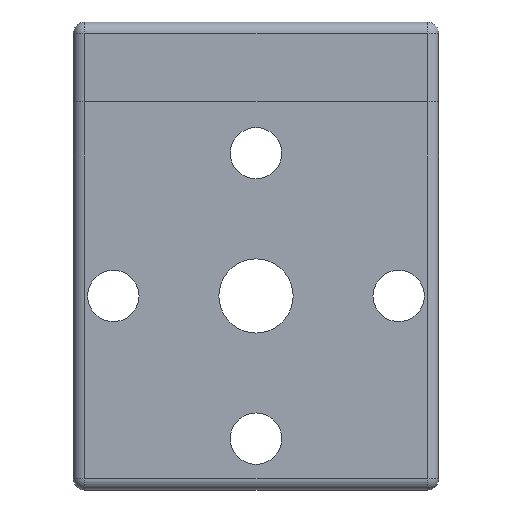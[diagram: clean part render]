
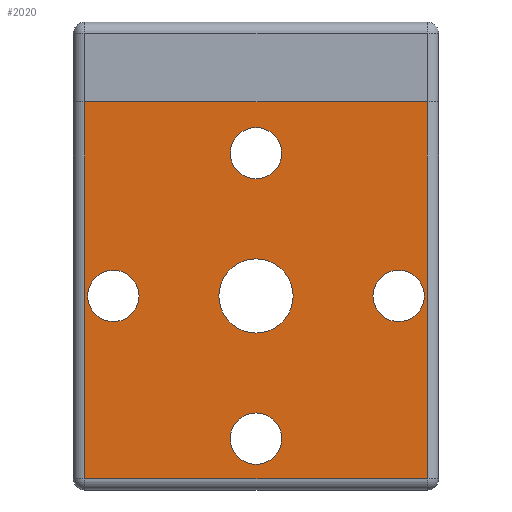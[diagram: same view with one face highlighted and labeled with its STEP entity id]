
A CAD part, front view. The second image highlights one B-rep face of the part: STEP entity #2020.
In plain terms, the highlighted planar face has unit normal (0, -1, 0).
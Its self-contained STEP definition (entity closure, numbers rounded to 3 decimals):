
#5 = DIRECTION ( 'NONE',  ( 0., -1., 0. ) ) ;
#8 = AXIS2_PLACEMENT_3D ( 'NONE', #698, #1572, #751 ) ;
#22 = FACE_BOUND ( 'NONE', #2240, .T. ) ;
#58 = CARTESIAN_POINT ( 'NONE',  ( 2.608, -2.603, 12.5 ) ) ;
#77 = CIRCLE ( 'NONE', #740, 2.25 ) ;
#87 = AXIS2_PLACEMENT_3D ( 'NONE', #3553, #5, #797 ) ;
#126 = CARTESIAN_POINT ( 'NONE',  ( -13.392, -2.603, -16. ) ) ;
#146 = VERTEX_POINT ( 'NONE', #3421 ) ;
#148 = DIRECTION ( 'NONE',  ( 0., 0., 1. ) ) ;
#166 = ORIENTED_EDGE ( 'NONE', *, *, #1016, .F. ) ;
#211 = LINE ( 'NONE', #1488, #2874 ) ;
#269 = CIRCLE ( 'NONE', #337, 2.25 ) ;
#272 = CARTESIAN_POINT ( 'NONE',  ( 2.608, -2.603, 10.25 ) ) ;
#283 = DIRECTION ( 'NONE',  ( 0., 0., 1. ) ) ;
#288 = VERTEX_POINT ( 'NONE', #3189 ) ;
#302 = EDGE_LOOP ( 'NONE', ( #2941, #1582 ) ) ;
#314 = DIRECTION ( 'NONE',  ( 0., 0., 1. ) ) ;
#337 = AXIS2_PLACEMENT_3D ( 'NONE', #3281, #813, #2729 ) ;
#343 = VECTOR ( 'NONE', #884, 1000. ) ;
#344 = CARTESIAN_POINT ( 'NONE',  ( -12.392, -2.603, 17. ) ) ;
#354 = CIRCLE ( 'NONE', #87, 2.25 ) ;
#359 = CARTESIAN_POINT ( 'NONE',  ( 2.608, -2.603, -12.5 ) ) ;
#379 = DIRECTION ( 'NONE',  ( 0., 0., -1. ) ) ;
#400 = CIRCLE ( 'NONE', #1504, 2.25 ) ;
#420 = DIRECTION ( 'NONE',  ( 0., 0., 1. ) ) ;
#422 = CARTESIAN_POINT ( 'NONE',  ( 2.608, -2.603, 0. ) ) ;
#426 = FACE_BOUND ( 'NONE', #647, .T. ) ;
#438 = LINE ( 'NONE', #126, #3260 ) ;
#439 = DIRECTION ( 'NONE',  ( 0., 0., 1. ) ) ;
#450 = EDGE_LOOP ( 'NONE', ( #1532, #166 ) ) ;
#512 = CIRCLE ( 'NONE', #2456, 3.25 ) ;
#571 = EDGE_CURVE ( 'NONE', #572, #3254, #3510, .T. ) ;
#572 = VERTEX_POINT ( 'NONE', #1012 ) ;
#591 = DIRECTION ( 'NONE',  ( 0., -1., 0. ) ) ;
#613 = ORIENTED_EDGE ( 'NONE', *, *, #1084, .F. ) ;
#647 = EDGE_LOOP ( 'NONE', ( #687, #1005 ) ) ;
#687 = ORIENTED_EDGE ( 'NONE', *, *, #1227, .F. ) ;
#698 = CARTESIAN_POINT ( 'NONE',  ( 15.108, -2.603, 0. ) ) ;
#711 = FACE_BOUND ( 'NONE', #302, .T. ) ;
#740 = AXIS2_PLACEMENT_3D ( 'NONE', #2786, #2244, #283 ) ;
#751 = DIRECTION ( 'NONE',  ( 0., 0., 1. ) ) ;
#790 = DIRECTION ( 'NONE',  ( 0., 1., 0. ) ) ;
#797 = DIRECTION ( 'NONE',  ( 0., 0., 1. ) ) ;
#813 = DIRECTION ( 'NONE',  ( 0., -1., 0. ) ) ;
#821 = CARTESIAN_POINT ( 'NONE',  ( -9.892, -2.603, -2.25 ) ) ;
#832 = DIRECTION ( 'NONE',  ( 0., 0., 1. ) ) ;
#834 = ORIENTED_EDGE ( 'NONE', *, *, #3063, .T. ) ;
#836 = EDGE_CURVE ( 'NONE', #2509, #1073, #2566, .T. ) ;
#849 = EDGE_LOOP ( 'NONE', ( #613, #834, #2568, #2359 ) ) ;
#856 = VERTEX_POINT ( 'NONE', #344 ) ;
#865 = VERTEX_POINT ( 'NONE', #2265 ) ;
#884 = DIRECTION ( 'NONE',  ( 1., 0., 0. ) ) ;
#944 = VERTEX_POINT ( 'NONE', #272 ) ;
#1005 = ORIENTED_EDGE ( 'NONE', *, *, #836, .F. ) ;
#1012 = CARTESIAN_POINT ( 'NONE',  ( 15.108, -2.603, 2.25 ) ) ;
#1013 = CARTESIAN_POINT ( 'NONE',  ( 15.108, -2.603, -2.25 ) ) ;
#1016 = EDGE_CURVE ( 'NONE', #944, #3370, #1831, .T. ) ;
#1062 = LINE ( 'NONE', #2514, #343 ) ;
#1073 = VERTEX_POINT ( 'NONE', #1969 ) ;
#1084 = EDGE_CURVE ( 'NONE', #856, #1756, #1062, .T. ) ;
#1227 = EDGE_CURVE ( 'NONE', #1073, #2509, #3511, .T. ) ;
#1274 = EDGE_CURVE ( 'NONE', #288, #1756, #2420, .T. ) ;
#1289 = CIRCLE ( 'NONE', #2809, 3.25 ) ;
#1326 = VECTOR ( 'NONE', #420, 1000. ) ;
#1356 = PLANE ( 'NONE',  #2601 ) ;
#1404 = AXIS2_PLACEMENT_3D ( 'NONE', #1557, #3201, #439 ) ;
#1488 = CARTESIAN_POINT ( 'NONE',  ( -12.392, -2.603, 17. ) ) ;
#1504 = AXIS2_PLACEMENT_3D ( 'NONE', #2165, #1617, #1632 ) ;
#1511 = DIRECTION ( 'NONE',  ( 0., 0., 1. ) ) ;
#1532 = ORIENTED_EDGE ( 'NONE', *, *, #2304, .F. ) ;
#1557 = CARTESIAN_POINT ( 'NONE',  ( 2.608, -2.603, -12.5 ) ) ;
#1559 = AXIS2_PLACEMENT_3D ( 'NONE', #359, #3077, #3371 ) ;
#1572 = DIRECTION ( 'NONE',  ( 0., -1., 0. ) ) ;
#1582 = ORIENTED_EDGE ( 'NONE', *, *, #2283, .F. ) ;
#1617 = DIRECTION ( 'NONE',  ( 0., -1., 0. ) ) ;
#1632 = DIRECTION ( 'NONE',  ( 0., 0., 1. ) ) ;
#1637 = CARTESIAN_POINT ( 'NONE',  ( -13.392, -2.603, 17. ) ) ;
#1756 = VERTEX_POINT ( 'NONE', #2696 ) ;
#1811 = ORIENTED_EDGE ( 'NONE', *, *, #3141, .F. ) ;
#1815 = CARTESIAN_POINT ( 'NONE',  ( 2.608, -2.603, 0. ) ) ;
#1831 = CIRCLE ( 'NONE', #2847, 2.25 ) ;
#1870 = ORIENTED_EDGE ( 'NONE', *, *, #2632, .F. ) ;
#1954 = FACE_BOUND ( 'NONE', #450, .T. ) ;
#1963 = VERTEX_POINT ( 'NONE', #821 ) ;
#1969 = CARTESIAN_POINT ( 'NONE',  ( 2.608, -2.603, -10.25 ) ) ;
#2020 = ADVANCED_FACE ( 'NONE', ( #3426, #711, #426, #2818, #1954, #22 ), #1356, .F. ) ;
#2165 = CARTESIAN_POINT ( 'NONE',  ( 2.608, -2.603, 12.5 ) ) ;
#2240 = EDGE_LOOP ( 'NONE', ( #3512, #1811 ) ) ;
#2244 = DIRECTION ( 'NONE',  ( 0., -1., 0. ) ) ;
#2265 = CARTESIAN_POINT ( 'NONE',  ( -9.892, -2.603, 2.25 ) ) ;
#2283 = EDGE_CURVE ( 'NONE', #1963, #865, #354, .T. ) ;
#2304 = EDGE_CURVE ( 'NONE', #3370, #944, #400, .T. ) ;
#2359 = ORIENTED_EDGE ( 'NONE', *, *, #1274, .T. ) ;
#2420 = LINE ( 'NONE', #2920, #1326 ) ;
#2431 = VERTEX_POINT ( 'NONE', #3075 ) ;
#2456 = AXIS2_PLACEMENT_3D ( 'NONE', #422, #2599, #148 ) ;
#2458 = CARTESIAN_POINT ( 'NONE',  ( 2.608, -2.603, -14.75 ) ) ;
#2509 = VERTEX_POINT ( 'NONE', #2458 ) ;
#2514 = CARTESIAN_POINT ( 'NONE',  ( -13.392, -2.603, 17. ) ) ;
#2566 = CIRCLE ( 'NONE', #1559, 2.25 ) ;
#2568 = ORIENTED_EDGE ( 'NONE', *, *, #2966, .T. ) ;
#2596 = CARTESIAN_POINT ( 'NONE',  ( -12.392, -2.603, -16. ) ) ;
#2599 = DIRECTION ( 'NONE',  ( 0., -1., 0. ) ) ;
#2601 = AXIS2_PLACEMENT_3D ( 'NONE', #1637, #790, #832 ) ;
#2632 = EDGE_CURVE ( 'NONE', #3254, #572, #77, .T. ) ;
#2696 = CARTESIAN_POINT ( 'NONE',  ( 17.608, -2.603, 17. ) ) ;
#2729 = DIRECTION ( 'NONE',  ( 0., 0., 1. ) ) ;
#2734 = CARTESIAN_POINT ( 'NONE',  ( 2.608, -2.603, 14.75 ) ) ;
#2786 = CARTESIAN_POINT ( 'NONE',  ( 15.108, -2.603, 0. ) ) ;
#2809 = AXIS2_PLACEMENT_3D ( 'NONE', #1815, #3441, #1511 ) ;
#2818 = FACE_BOUND ( 'NONE', #2886, .T. ) ;
#2847 = AXIS2_PLACEMENT_3D ( 'NONE', #58, #591, #314 ) ;
#2874 = VECTOR ( 'NONE', #379, 1000. ) ;
#2886 = EDGE_LOOP ( 'NONE', ( #3566, #1870 ) ) ;
#2898 = VERTEX_POINT ( 'NONE', #2596 ) ;
#2920 = CARTESIAN_POINT ( 'NONE',  ( 17.608, -2.603, 17. ) ) ;
#2929 = EDGE_CURVE ( 'NONE', #2431, #146, #512, .T. ) ;
#2941 = ORIENTED_EDGE ( 'NONE', *, *, #3548, .F. ) ;
#2966 = EDGE_CURVE ( 'NONE', #2898, #288, #438, .T. ) ;
#3063 = EDGE_CURVE ( 'NONE', #856, #2898, #211, .T. ) ;
#3075 = CARTESIAN_POINT ( 'NONE',  ( 2.608, -2.603, 3.25 ) ) ;
#3077 = DIRECTION ( 'NONE',  ( 0., -1., 0. ) ) ;
#3141 = EDGE_CURVE ( 'NONE', #146, #2431, #1289, .T. ) ;
#3159 = DIRECTION ( 'NONE',  ( 1., 0., 0. ) ) ;
#3189 = CARTESIAN_POINT ( 'NONE',  ( 17.608, -2.603, -16. ) ) ;
#3201 = DIRECTION ( 'NONE',  ( 0., -1., 0. ) ) ;
#3254 = VERTEX_POINT ( 'NONE', #1013 ) ;
#3260 = VECTOR ( 'NONE', #3159, 1000. ) ;
#3281 = CARTESIAN_POINT ( 'NONE',  ( -9.892, -2.603, 0. ) ) ;
#3370 = VERTEX_POINT ( 'NONE', #2734 ) ;
#3371 = DIRECTION ( 'NONE',  ( 0., 0., 1. ) ) ;
#3421 = CARTESIAN_POINT ( 'NONE',  ( 2.608, -2.603, -3.25 ) ) ;
#3426 = FACE_OUTER_BOUND ( 'NONE', #849, .T. ) ;
#3441 = DIRECTION ( 'NONE',  ( 0., -1., 0. ) ) ;
#3510 = CIRCLE ( 'NONE', #8, 2.25 ) ;
#3511 = CIRCLE ( 'NONE', #1404, 2.25 ) ;
#3512 = ORIENTED_EDGE ( 'NONE', *, *, #2929, .F. ) ;
#3548 = EDGE_CURVE ( 'NONE', #865, #1963, #269, .T. ) ;
#3553 = CARTESIAN_POINT ( 'NONE',  ( -9.892, -2.603, 0. ) ) ;
#3566 = ORIENTED_EDGE ( 'NONE', *, *, #571, .F. ) ;
